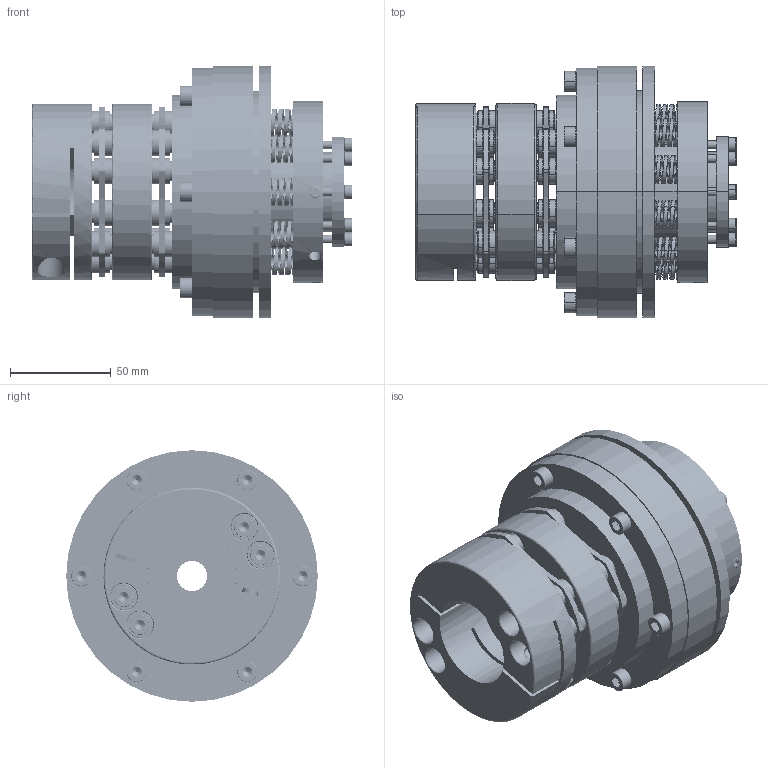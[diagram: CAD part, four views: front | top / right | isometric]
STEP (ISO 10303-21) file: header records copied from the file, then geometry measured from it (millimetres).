
FILE_DESCRIPTION (( 'STEP AP214' ), '1' );
FILE_NAME ('STL150-P-H.STEP', '2020-03-01T04:16:57', ( '' ), ( '' ), 'SwSTEP 2.0', 'SolidWorks 2015', '' );
FILE_SCHEMA (( 'AUTOMOTIVE_DESIGN' ));
Length unit declared in the file: millimetre
Products named in the file (1): STL150-P-H
Bounding box: 159.4 x 125 x 125 mm (x, y, z)
Volume: 855565.6 mm3; surface area: 183530.6 mm2
Topology: 1 solids, 81 shells, 2158 faces, 5430 edges, 3423 vertices
Faces by surface type: cylinder 841, plane 631, bspline 410, cone 192, torus 84
Entity records: 141233 total; most frequent: CARTESIAN_POINT 67176, ORIENTED_EDGE 10712, DIRECTION 10490, EDGE_CURVE 5356, AXIS2_PLACEMENT_3D 4298, VERTEX_POINT 3423, CIRCLE 2549, EDGE_LOOP 2461
